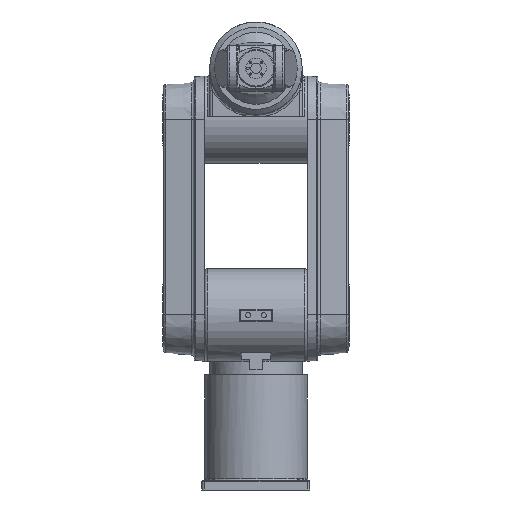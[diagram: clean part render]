
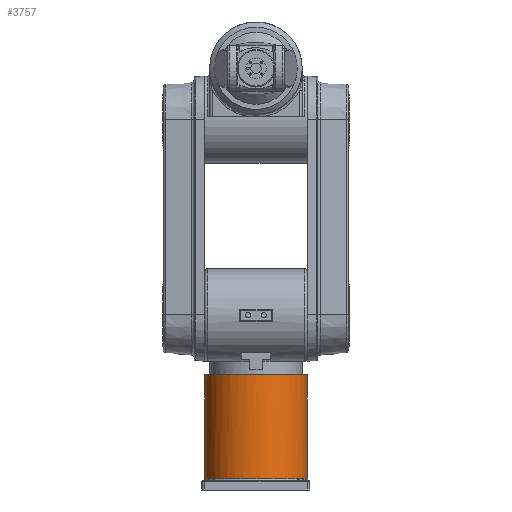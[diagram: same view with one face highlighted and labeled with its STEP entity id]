
A CAD part, front view. The second image highlights one B-rep face of the part: STEP entity #3757.
In plain terms, the highlighted cylindrical face has radius 100 mm (diameter 200 mm), a full revolution.
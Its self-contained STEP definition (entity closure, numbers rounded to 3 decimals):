
#456=CARTESIAN_POINT('',(61.744,78.662,22.35));
#457=VERTEX_POINT('',#456);
#467=CARTESIAN_POINT('',(63.46,77.284,22.0));
#468=VERTEX_POINT('',#467);
#469=CARTESIAN_POINT('',(61.744,78.662,22.35));
#470=CARTESIAN_POINT('',(61.936,78.511,22.233));
#471=CARTESIAN_POINT('',(62.176,78.322,22.146));
#472=CARTESIAN_POINT('',(62.749,77.863,22.029));
#473=CARTESIAN_POINT('',(63.082,77.595,22.0));
#474=CARTESIAN_POINT('',(63.46,77.284,22.0));
#475=B_SPLINE_CURVE_WITH_KNOTS('',3,(#469,#470,#471,#472,#473,#474),.UNSPECIFIED.,.F.,.U.,(4,2,4),(0.5,0.75,1.0),.UNSPECIFIED.);
#476=EDGE_CURVE('',#457,#468,#475,.T.);
#816=CARTESIAN_POINT('',(-61.744,78.662,22.35));
#817=VERTEX_POINT('',#816);
#827=CARTESIAN_POINT('',(-61.165,79.113,23.399));
#828=VERTEX_POINT('',#827);
#829=CARTESIAN_POINT('',(-61.744,78.662,22.35));
#830=CARTESIAN_POINT('',(-61.551,78.813,22.466));
#831=CARTESIAN_POINT('',(-61.407,78.926,22.612));
#832=CARTESIAN_POINT('',(-61.262,79.038,22.874));
#833=CARTESIAN_POINT('',(-61.225,79.066,22.969));
#834=CARTESIAN_POINT('',(-61.177,79.103,23.173));
#835=CARTESIAN_POINT('',(-61.165,79.113,23.282));
#836=CARTESIAN_POINT('',(-61.165,79.113,23.399));
#837=B_SPLINE_CURVE_WITH_KNOTS('',3,(#829,#830,#831,#832,#833,#834,#835,#836),.UNSPECIFIED.,.F.,.U.,(4,2,2,4),(0.5,0.75,0.875,1.0),.UNSPECIFIED.);
#838=EDGE_CURVE('',#817,#828,#837,.T.);
#2869=CARTESIAN_POINT('',(-60.0,80.0,179.214));
#2870=VERTEX_POINT('',#2869);
#2871=CARTESIAN_POINT('',(-59.461,80.401,180.));
#2872=VERTEX_POINT('',#2871);
#2873=CARTESIAN_POINT('',(-59.997,80.002,179.212));
#2874=CARTESIAN_POINT('',(-59.831,80.126,179.488));
#2875=CARTESIAN_POINT('',(-59.651,80.261,179.75));
#2876=CARTESIAN_POINT('',(-59.459,80.403,179.997));
#2877=B_SPLINE_CURVE_WITH_KNOTS('',3,(#2873,#2874,#2875,#2876),.UNSPECIFIED.,.F.,.U.,(4,4),(-0.934,-0.829),.UNSPECIFIED.);
#2878=EDGE_CURVE('',#2870,#2872,#2877,.T.);
#2880=CARTESIAN_POINT('',(-53.398,84.55,183.0));
#2881=VERTEX_POINT('',#2880);
#2882=CARTESIAN_POINT('',(-59.459,80.403,179.997));
#2883=CARTESIAN_POINT('',(-59.026,80.723,180.554));
#2884=CARTESIAN_POINT('',(-57.276,81.998,182.265));
#2885=CARTESIAN_POINT('',(-55.026,83.522,183.0));
#2886=CARTESIAN_POINT('',(-53.398,84.55,183.0));
#2887=B_SPLINE_CURVE_WITH_KNOTS('',3,(#2882,#2883,#2884,#2885,#2886),.UNSPECIFIED.,.F.,.U.,(4,1,4),(-0.829,-0.595,0.),.UNSPECIFIED.);
#2888=EDGE_CURVE('',#2872,#2881,#2887,.T.);
#2911=CARTESIAN_POINT('',(-61.165,79.113,175.0));
#2912=VERTEX_POINT('',#2911);
#2920=CARTESIAN_POINT('',(-61.165,79.113,175.));
#2921=CARTESIAN_POINT('',(-61.165,79.113,175.991));
#2922=CARTESIAN_POINT('',(-60.919,79.304,177.301));
#2923=CARTESIAN_POINT('',(-60.328,79.753,178.631));
#2924=CARTESIAN_POINT('',(-60.09,79.933,179.058));
#2925=CARTESIAN_POINT('',(-59.997,80.002,179.212));
#2926=B_SPLINE_CURVE_WITH_KNOTS('',3,(#2920,#2921,#2922,#2923,#2924,#2925),.UNSPECIFIED.,.F.,.U.,(4,1,1,4),(-1.388,-1.091,-0.991,-0.934),.UNSPECIFIED.);
#2927=EDGE_CURVE('',#2912,#2870,#2926,.T.);
#2968=CARTESIAN_POINT('',(59.461,80.401,180.));
#2969=VERTEX_POINT('',#2968);
#2970=CARTESIAN_POINT('',(60.,80.,179.214));
#2971=VERTEX_POINT('',#2970);
#2972=CARTESIAN_POINT('',(59.46,80.402,179.999));
#2973=CARTESIAN_POINT('',(59.653,80.26,179.751));
#2974=CARTESIAN_POINT('',(59.833,80.125,179.489));
#2975=CARTESIAN_POINT('',(60.,80.,179.214));
#2976=B_SPLINE_CURVE_WITH_KNOTS('',3,(#2972,#2973,#2974,#2975),.UNSPECIFIED.,.F.,.U.,(4,4),(-0.558,-0.454),.UNSPECIFIED.);
#2977=EDGE_CURVE('',#2969,#2971,#2976,.T.);
#2979=CARTESIAN_POINT('',(61.165,79.113,175.0));
#2980=VERTEX_POINT('',#2979);
#2981=CARTESIAN_POINT('',(60.,80.,179.214));
#2982=CARTESIAN_POINT('',(60.09,79.932,179.064));
#2983=CARTESIAN_POINT('',(60.479,79.639,178.37));
#2984=CARTESIAN_POINT('',(61.,79.241,176.999));
#2985=CARTESIAN_POINT('',(61.165,79.113,175.662));
#2986=CARTESIAN_POINT('',(61.165,79.113,175.));
#2987=B_SPLINE_CURVE_WITH_KNOTS('',3,(#2981,#2982,#2983,#2984,#2985,#2986),.UNSPECIFIED.,.F.,.U.,(4,1,1,4),(-0.454,-0.397,-0.199,0.),.UNSPECIFIED.);
#2988=EDGE_CURVE('',#2971,#2980,#2987,.T.);
#3011=CARTESIAN_POINT('',(53.398,84.55,183.0));
#3012=VERTEX_POINT('',#3011);
#3020=CARTESIAN_POINT('',(53.398,84.55,183.0));
#3021=CARTESIAN_POINT('',(55.571,83.177,183.0));
#3022=CARTESIAN_POINT('',(57.82,81.612,182.024));
#3023=CARTESIAN_POINT('',(59.39,80.454,180.089));
#3024=CARTESIAN_POINT('',(59.46,80.402,179.999));
#3025=B_SPLINE_CURVE_WITH_KNOTS('',3,(#3020,#3021,#3022,#3023,#3024),.UNSPECIFIED.,.F.,.U.,(4,1,4),(-1.39,-0.596,-0.558),.UNSPECIFIED.);
#3026=EDGE_CURVE('',#3012,#2969,#3025,.T.);
#3069=CARTESIAN_POINT('',(-63.46,77.284,22.0));
#3070=VERTEX_POINT('',#3069);
#3078=CARTESIAN_POINT('',(-63.46,77.284,22.0));
#3079=CARTESIAN_POINT('',(-63.082,77.595,22.0));
#3080=CARTESIAN_POINT('',(-62.749,77.863,22.029));
#3081=CARTESIAN_POINT('',(-62.176,78.322,22.146));
#3082=CARTESIAN_POINT('',(-61.936,78.511,22.233));
#3083=CARTESIAN_POINT('',(-61.744,78.662,22.35));
#3084=B_SPLINE_CURVE_WITH_KNOTS('',3,(#3078,#3079,#3080,#3081,#3082,#3083),.UNSPECIFIED.,.F.,.U.,(4,2,4),(0.0,0.25,0.5),.UNSPECIFIED.);
#3085=EDGE_CURVE('',#3070,#817,#3084,.T.);
#3147=CARTESIAN_POINT('',(61.165,79.113,23.399));
#3148=VERTEX_POINT('',#3147);
#3156=CARTESIAN_POINT('',(61.165,79.113,23.399));
#3157=CARTESIAN_POINT('',(61.165,79.113,23.282));
#3158=CARTESIAN_POINT('',(61.177,79.103,23.173));
#3159=CARTESIAN_POINT('',(61.225,79.066,22.969));
#3160=CARTESIAN_POINT('',(61.262,79.038,22.874));
#3161=CARTESIAN_POINT('',(61.407,78.926,22.612));
#3162=CARTESIAN_POINT('',(61.551,78.813,22.466));
#3163=CARTESIAN_POINT('',(61.744,78.662,22.35));
#3164=B_SPLINE_CURVE_WITH_KNOTS('',3,(#3156,#3157,#3158,#3159,#3160,#3161,#3162,#3163),.UNSPECIFIED.,.F.,.U.,(4,2,2,4),(0.0,0.125,0.25,0.5),.UNSPECIFIED.);
#3165=EDGE_CURVE('',#3148,#457,#3164,.T.);
#3190=CARTESIAN_POINT('',(0.0,0.0,22.0));
#3191=DIRECTION('',(0.0,0.0,-1.0));
#3192=DIRECTION('',(0.0,-1.0,0.0));
#3193=AXIS2_PLACEMENT_3D('',#3190,#3191,#3192);
#3194=CIRCLE('',#3193,100.0);
#3195=EDGE_CURVE('',#468,#3070,#3194,.T.);
#3229=CARTESIAN_POINT('',(61.165,79.113,175.0));
#3230=DIRECTION('',(0.0,0.0,-1.0));
#3231=VECTOR('',#3230,151.601);
#3232=LINE('',#3229,#3231);
#3233=EDGE_CURVE('',#2980,#3148,#3232,.T.);
#3253=CARTESIAN_POINT('',(-61.165,79.113,23.399));
#3254=DIRECTION('',(0.0,0.0,1.0));
#3255=VECTOR('',#3254,151.601);
#3256=LINE('',#3253,#3255);
#3257=EDGE_CURVE('',#828,#2912,#3256,.T.);
#3297=CARTESIAN_POINT('',(0.0,0.0,183.0));
#3298=DIRECTION('',(0.0,0.0,-1.0));
#3299=DIRECTION('',(0.0,1.0,0.0));
#3300=AXIS2_PLACEMENT_3D('',#3297,#3298,#3299);
#3301=CIRCLE('',#3300,100.0);
#3302=EDGE_CURVE('',#2881,#3012,#3301,.T.);
#3725=CARTESIAN_POINT('',(0.0,0.0,19.0));
#3726=DIRECTION('',(0.0,0.0,1.0));
#3727=DIRECTION('',(-1.0,0.0,0.0));
#3728=AXIS2_PLACEMENT_3D('',#3725,#3726,#3727);
#3729=CYLINDRICAL_SURFACE('',#3728,100.0);
#3730=ORIENTED_EDGE('',*,*,#2888,.F.);
#3731=ORIENTED_EDGE('',*,*,#2878,.F.);
#3732=ORIENTED_EDGE('',*,*,#2927,.F.);
#3733=ORIENTED_EDGE('',*,*,#3257,.F.);
#3734=ORIENTED_EDGE('',*,*,#838,.F.);
#3735=ORIENTED_EDGE('',*,*,#3085,.F.);
#3736=ORIENTED_EDGE('',*,*,#3195,.F.);
#3737=ORIENTED_EDGE('',*,*,#476,.F.);
#3738=ORIENTED_EDGE('',*,*,#3165,.F.);
#3739=ORIENTED_EDGE('',*,*,#3233,.F.);
#3740=ORIENTED_EDGE('',*,*,#2988,.F.);
#3741=ORIENTED_EDGE('',*,*,#2977,.F.);
#3742=ORIENTED_EDGE('',*,*,#3026,.F.);
#3743=ORIENTED_EDGE('',*,*,#3302,.F.);
#3744=EDGE_LOOP('',(#3730,#3731,#3732,#3733,#3734,#3735,#3736,#3737,#3738,#3739,#3740,#3741,#3742,#3743));
#3745=FACE_OUTER_BOUND('',#3744,.T.);
#3746=CARTESIAN_POINT('',(100.0,0.,224.));
#3747=VERTEX_POINT('',#3746);
#3748=CARTESIAN_POINT('',(0.0,0.0,224.));
#3749=DIRECTION('',(0.0,0.0,-1.0));
#3750=DIRECTION('',(-1.0,0.0,0.0));
#3751=AXIS2_PLACEMENT_3D('',#3748,#3749,#3750);
#3752=CIRCLE('',#3751,100.0);
#3753=EDGE_CURVE('',#3747,#3747,#3752,.T.);
#3754=ORIENTED_EDGE('',*,*,#3753,.T.);
#3755=EDGE_LOOP('',(#3754));
#3756=FACE_BOUND('',#3755,.T.);
#3757=ADVANCED_FACE('',(#3745,#3756),#3729,.T.);
